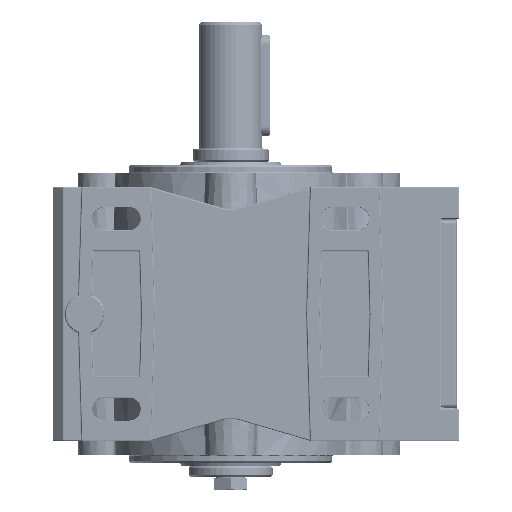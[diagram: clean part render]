
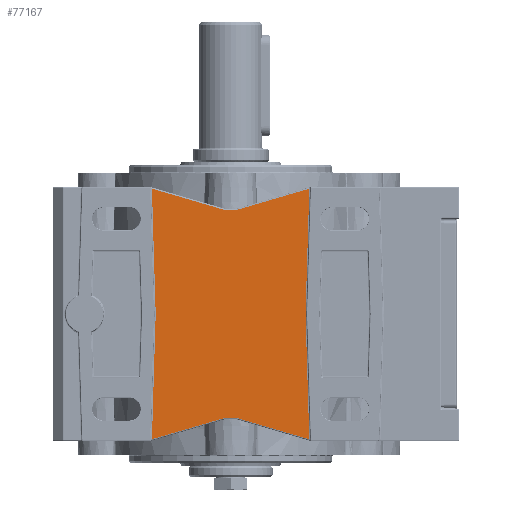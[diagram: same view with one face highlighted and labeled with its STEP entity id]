
A CAD part, left-side view. The second image highlights one B-rep face of the part: STEP entity #77167.
In plain terms, the highlighted planar face has unit normal (-1, 0, 0).
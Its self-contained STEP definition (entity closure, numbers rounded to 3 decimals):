
#71434=CARTESIAN_POINT('',(-69.0,-2.778,-62.561));
#71435=VERTEX_POINT('',#71434);
#71453=CARTESIAN_POINT('',(-69.0,-30.98,-70.826));
#71454=VERTEX_POINT('',#71453);
#71462=CARTESIAN_POINT('',(-69.0,-30.98,-70.826));
#71463=DIRECTION('',(0.0,0.96,0.281));
#71464=VECTOR('',#71463,29.388);
#71465=LINE('',#71462,#71464);
#71466=EDGE_CURVE('',#71454,#71435,#71465,.T.);
#71476=CARTESIAN_POINT('',(-69.0,-2.356,-62.5));
#71477=VERTEX_POINT('',#71476);
#71495=CARTESIAN_POINT('',(-69.0,-2.356,-64.));
#71496=DIRECTION('',(-1.0,0.,0.));
#71497=DIRECTION('',(0.,-0.142,0.99));
#71498=AXIS2_PLACEMENT_3D('',#71495,#71496,#71497);
#71499=CIRCLE('',#71498,1.5);
#71500=EDGE_CURVE('',#71435,#71477,#71499,.T.);
#71510=CARTESIAN_POINT('',(-69.0,2.356,-62.5));
#71511=VERTEX_POINT('',#71510);
#71528=CARTESIAN_POINT('',(-69.0,-2.356,-62.5));
#71529=DIRECTION('',(0.0,1.0,0.0));
#71530=VECTOR('',#71529,4.713);
#71531=LINE('',#71528,#71530);
#71532=EDGE_CURVE('',#71477,#71511,#71531,.T.);
#71542=CARTESIAN_POINT('',(-69.0,2.778,-62.561));
#71543=VERTEX_POINT('',#71542);
#71561=CARTESIAN_POINT('',(-69.0,2.356,-64.));
#71562=DIRECTION('',(-1.0,0.,0.));
#71563=DIRECTION('',(0.,0.142,0.99));
#71564=AXIS2_PLACEMENT_3D('',#71561,#71562,#71563);
#71565=CIRCLE('',#71564,1.5);
#71566=EDGE_CURVE('',#71511,#71543,#71565,.T.);
#71576=CARTESIAN_POINT('',(-69.,30.98,-70.826));
#71577=VERTEX_POINT('',#71576);
#71594=CARTESIAN_POINT('',(-69.0,2.778,-62.561));
#71595=DIRECTION('',(0.,0.96,-0.281));
#71596=VECTOR('',#71595,29.388);
#71597=LINE('',#71594,#71596);
#71598=EDGE_CURVE('',#71543,#71577,#71597,.T.);
#71887=CARTESIAN_POINT('',(-69.0,-29.501,-21.53));
#71888=VERTEX_POINT('',#71887);
#71896=CARTESIAN_POINT('',(-69.0,-29.501,-21.53));
#71897=DIRECTION('',(0.0,-0.03,-1.));
#71898=VECTOR('',#71897,49.319);
#71899=LINE('',#71896,#71898);
#71900=EDGE_CURVE('',#71888,#71454,#71899,.T.);
#72291=CARTESIAN_POINT('',(-69.0,2.778,19.561));
#72292=VERTEX_POINT('',#72291);
#72310=CARTESIAN_POINT('',(-69.,30.98,27.826));
#72311=VERTEX_POINT('',#72310);
#72319=CARTESIAN_POINT('',(-69.,30.98,27.826));
#72320=DIRECTION('',(0.,-0.96,-0.281));
#72321=VECTOR('',#72320,29.388);
#72322=LINE('',#72319,#72321);
#72323=EDGE_CURVE('',#72311,#72292,#72322,.T.);
#72333=CARTESIAN_POINT('',(-69.0,2.356,19.5));
#72334=VERTEX_POINT('',#72333);
#72352=CARTESIAN_POINT('',(-69.0,2.356,21.0));
#72353=DIRECTION('',(-1.0,0.,0.));
#72354=DIRECTION('',(0.,0.142,-0.99));
#72355=AXIS2_PLACEMENT_3D('',#72352,#72353,#72354);
#72356=CIRCLE('',#72355,1.5);
#72357=EDGE_CURVE('',#72292,#72334,#72356,.T.);
#72367=CARTESIAN_POINT('',(-69.0,-2.356,19.5));
#72368=VERTEX_POINT('',#72367);
#72385=CARTESIAN_POINT('',(-69.0,2.356,19.5));
#72386=DIRECTION('',(0.0,-1.0,0.0));
#72387=VECTOR('',#72386,4.713);
#72388=LINE('',#72385,#72387);
#72389=EDGE_CURVE('',#72334,#72368,#72388,.T.);
#72399=CARTESIAN_POINT('',(-69.0,-2.778,19.561));
#72400=VERTEX_POINT('',#72399);
#72418=CARTESIAN_POINT('',(-69.0,-2.356,21.0));
#72419=DIRECTION('',(-1.0,0.,0.));
#72420=DIRECTION('',(0.,-0.142,-0.99));
#72421=AXIS2_PLACEMENT_3D('',#72418,#72419,#72420);
#72422=CIRCLE('',#72421,1.5);
#72423=EDGE_CURVE('',#72368,#72400,#72422,.T.);
#72433=CARTESIAN_POINT('',(-69.0,-30.98,27.826));
#72434=VERTEX_POINT('',#72433);
#72451=CARTESIAN_POINT('',(-69.0,-2.778,19.561));
#72452=DIRECTION('',(0.0,-0.96,0.281));
#72453=VECTOR('',#72452,29.388);
#72454=LINE('',#72451,#72453);
#72455=EDGE_CURVE('',#72400,#72434,#72454,.T.);
#75148=CARTESIAN_POINT('',(-69.,29.5,-21.479));
#75149=VERTEX_POINT('',#75148);
#75157=CARTESIAN_POINT('',(-69.,29.5,-21.479));
#75158=DIRECTION('',(0.0,0.03,1.));
#75159=VECTOR('',#75158,49.328);
#75160=LINE('',#75157,#75159);
#75161=EDGE_CURVE('',#75149,#72311,#75160,.T.);
#75171=CARTESIAN_POINT('',(-69.,29.5,-21.521));
#75172=VERTEX_POINT('',#75171);
#75180=CARTESIAN_POINT('',(-69.,30.2,-21.5));
#75181=DIRECTION('',(-1.0,0.0,0.0));
#75182=DIRECTION('',(0.0,-1.0,0.0));
#75183=AXIS2_PLACEMENT_3D('',#75180,#75181,#75182);
#75184=CIRCLE('',#75183,0.7);
#75185=EDGE_CURVE('',#75172,#75149,#75184,.T.);
#75198=CARTESIAN_POINT('',(-69.,30.98,-70.826));
#75199=DIRECTION('',(0.0,-0.03,1.));
#75200=VECTOR('',#75199,49.328);
#75201=LINE('',#75198,#75200);
#75202=EDGE_CURVE('',#71577,#75172,#75201,.T.);
#77106=CARTESIAN_POINT('',(-69.0,-29.501,-21.47));
#77107=VERTEX_POINT('',#77106);
#77115=CARTESIAN_POINT('',(-69.0,-30.5,-21.5));
#77116=DIRECTION('',(-1.0,0.0,0.0));
#77117=DIRECTION('',(0.0,1.0,0.0));
#77118=AXIS2_PLACEMENT_3D('',#77115,#77116,#77117);
#77119=CIRCLE('',#77118,1.0);
#77120=EDGE_CURVE('',#77107,#71888,#77119,.T.);
#77133=CARTESIAN_POINT('',(-69.0,-30.98,27.826));
#77134=DIRECTION('',(0.0,0.03,-1.));
#77135=VECTOR('',#77134,49.319);
#77136=LINE('',#77133,#77135);
#77137=EDGE_CURVE('',#72434,#77107,#77136,.T.);
#77144=CARTESIAN_POINT('',(-69.0,0.,3.836));
#77145=DIRECTION('',(1.0,0.0,0.0));
#77146=DIRECTION('',(0.0,0.0,-1.0));
#77147=AXIS2_PLACEMENT_3D('',#77144,#77145,#77146);
#77148=PLANE('',#77147);
#77149=ORIENTED_EDGE('',*,*,#71466,.F.);
#77150=ORIENTED_EDGE('',*,*,#71900,.F.);
#77151=ORIENTED_EDGE('',*,*,#77120,.F.);
#77152=ORIENTED_EDGE('',*,*,#77137,.F.);
#77153=ORIENTED_EDGE('',*,*,#72455,.F.);
#77154=ORIENTED_EDGE('',*,*,#72423,.F.);
#77155=ORIENTED_EDGE('',*,*,#72389,.F.);
#77156=ORIENTED_EDGE('',*,*,#72357,.F.);
#77157=ORIENTED_EDGE('',*,*,#72323,.F.);
#77158=ORIENTED_EDGE('',*,*,#75161,.F.);
#77159=ORIENTED_EDGE('',*,*,#75185,.F.);
#77160=ORIENTED_EDGE('',*,*,#75202,.F.);
#77161=ORIENTED_EDGE('',*,*,#71598,.F.);
#77162=ORIENTED_EDGE('',*,*,#71566,.F.);
#77163=ORIENTED_EDGE('',*,*,#71532,.F.);
#77164=ORIENTED_EDGE('',*,*,#71500,.F.);
#77165=EDGE_LOOP('',(#77149,#77150,#77151,#77152,#77153,#77154,#77155,#77156,#77157,#77158,#77159,#77160,#77161,#77162,#77163,#77164));
#77166=FACE_OUTER_BOUND('',#77165,.T.);
#77167=ADVANCED_FACE('',(#77166),#77148,.F.);
